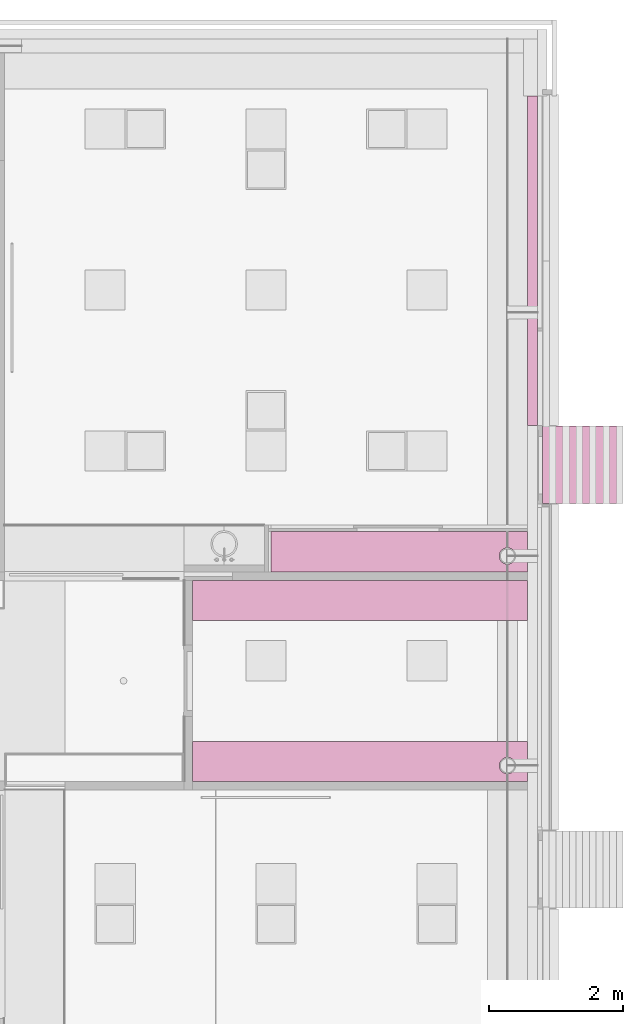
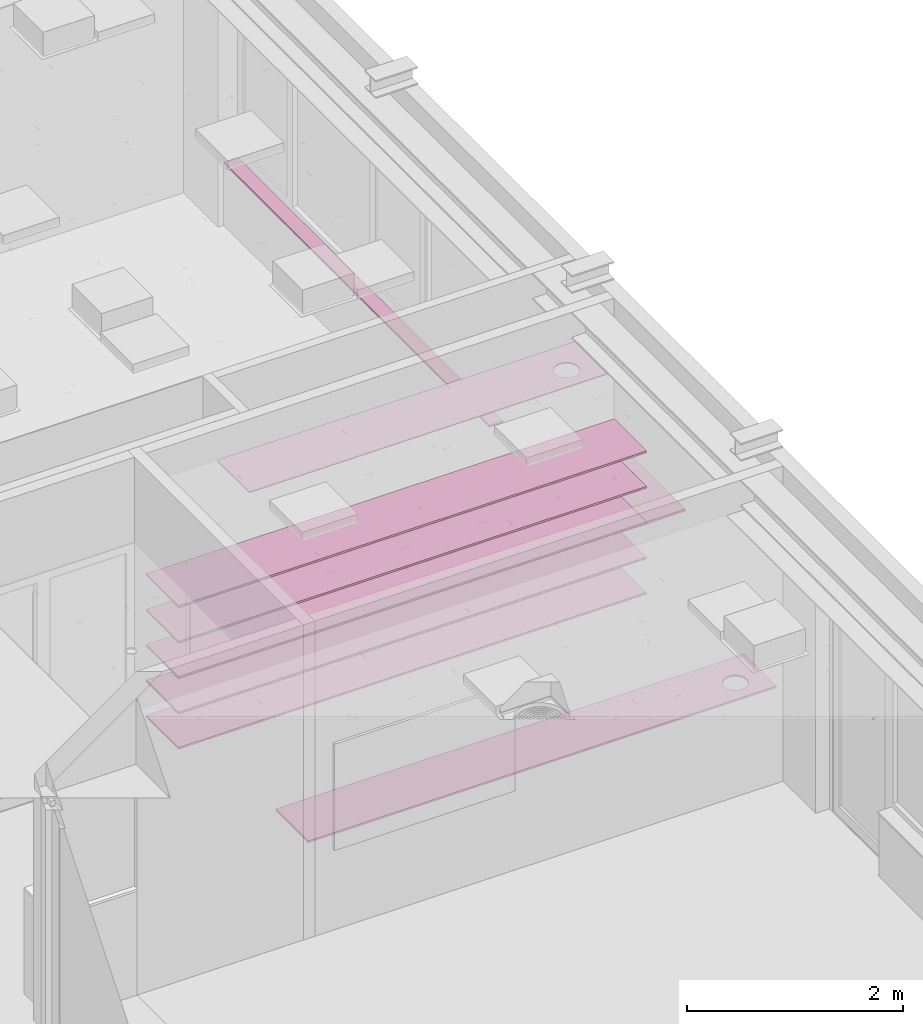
# One storey, part 329 of 347: 9 furnishings.
"""IFC2X3 building model written with IfcOpenShell, lengths in millimetres."""

from ifc_helpers import new_model, entity, si_unit, converted_unit, derived_unit, money_unit, direction, frame, origin_with_axes, place, context, subcontext, project, spatial, faceted_brep, material, type_object, element, save


model = new_model("IFC2X3")

# Units and contexts
model_context = context("Model", 3, precision=0.01, world=origin_with_axes(), true_north=direction((0.0, 1.0)))
plan_context = context("Plan", 3, precision=0.01, world=origin_with_axes(), true_north=direction((0.0, 1.0)))
body_context = subcontext(model_context, "Body", "Model", "MODEL_VIEW")
ifc_project = project(units=[si_unit("LENGTHUNIT", "METRE", prefix="MILLI"), si_unit("AREAUNIT", "SQUARE_METRE"), si_unit("VOLUMEUNIT", "CUBIC_METRE"), converted_unit("PLANEANGLEUNIT", "DEGREE", entity("IfcPlaneAngleMeasure", 0.0174532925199), si_unit("PLANEANGLEUNIT", "RADIAN"), dimensions=[0, 0, 0, 0, 0, 0, 0]), money_unit("EUR"), converted_unit("TIMEUNIT", "Year", entity("IfcTimeMeasure", 31556926.0), si_unit("TIMEUNIT", "SECOND"), dimensions=[0, 0, 1, 0, 0, 0, 0]), si_unit("MASSUNIT", "GRAM", prefix="KILO"), si_unit("THERMODYNAMICTEMPERATUREUNIT", "DEGREE_CELSIUS"), si_unit("LUMINOUSINTENSITYUNIT", "LUMEN"), si_unit("ENERGYUNIT", "JOULE", prefix="MEGA"), derived_unit("THERMALCONDUCTANCEUNIT", [(si_unit("POWERUNIT", "WATT"), 1), (si_unit("LENGTHUNIT", "METRE"), -1), (si_unit("THERMODYNAMICTEMPERATUREUNIT", "KELVIN"), -1)]), derived_unit("SPECIFICHEATCAPACITYUNIT", [(si_unit("ENERGYUNIT", "JOULE"), 1), (si_unit("MASSUNIT", "GRAM", prefix="KILO"), -1), (si_unit("THERMODYNAMICTEMPERATUREUNIT", "KELVIN"), -1)]), derived_unit("MASSDENSITYUNIT", [(si_unit("MASSUNIT", "GRAM", prefix="KILO"), 1), (si_unit("VOLUMEUNIT", "CUBIC_METRE"), -1)])], contexts=[model_context, plan_context])

# Site, building, storey
site_placement = place(None, origin_with_axes())
site = spatial("IfcSite", under=ifc_project, at=site_placement, Name="Site", CompositionType="ELEMENT")
building_placement = place(site_placement, origin_with_axes())
building = spatial("IfcBuilding", under=site, at=building_placement, Name="Naam gebouw", CompositionType="ELEMENT")
storey_placement = place(building_placement, origin_with_axes())
storey = spatial("IfcBuildingStorey", under=building, at=storey_placement, Name="begane grond", CompositionType="ELEMENT", Elevation=0.0)

# Furnishings
ifc_material_1 = material(Name="ALG - LICHTE SCHEIDINGSWAND")
furniture_type_1 = type_object("IfcFurnitureType", Name="44 koof plaf 50", AssemblyPlace="NOTDEFINED")
furnishing_1_placement = place(storey_placement, frame((52050.0, 39087.5, 2622.0), z_axis=(0.0, 0.0, 1.0), x_axis=(1.0, 0.0, 0.0)))
element("IfcFurnishingElement", 1, at=furnishing_1_placement, inside=storey, type_object=furniture_type_1, material=ifc_material_1, Name="72_76 vaste inrichting", ObjectType="SHELF", context=body_context, shape_type="Brep", body=[
    faceted_brep([(3825.00005656, 600.000000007, 0.0), (3825.00005656, 0.0, 0.0), (0.0, 0.0, 0.0), (0.0, 600.000000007, 0.0), (3620.57889873, 161.278371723, 0.0), (3635.1434441, 184.457712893, 0.0), (3644.18493726, 210.296815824, 0.0), (3647.25, 237.5, 0.0), (3644.18493726, 264.703184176, 0.0), (3635.1434441, 290.542287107, 0.0), (3620.57889873, 313.721628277, 0.0), (3601.22162828, 333.078898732, 0.0), (3578.04228711, 347.643444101, 0.0), (3552.20318418, 356.684937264, 0.0), (3525.0, 359.75, 0.0), (3497.79681582, 356.684937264, 0.0), (3471.95771289, 347.643444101, 0.0), (3448.77837172, 333.078898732, 0.0), (3429.42110127, 313.721628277, 0.0), (3414.8565559, 290.542287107, 0.0), (3405.81506274, 264.703184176, 0.0), (3402.75, 237.5, 0.0), (3405.81506274, 210.296815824, 0.0), (3414.8565559, 184.457712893, 0.0), (3429.42110127, 161.278371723, 0.0), (3448.77837172, 141.921101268, 0.0), (3471.95771289, 127.356555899, 0.0), (3497.79681582, 118.315062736, 0.0), (3525.0, 115.25, 0.0), (3552.20318418, 118.315062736, 0.0), (3578.04228711, 127.356555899, 0.0), (3601.22162828, 141.921101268, 0.0), (3825.00005656, 600.000000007, 12.0), (3825.00005656, 0.0, 12.0), (0.0, 0.0, 12.0), (0.0, 600.000000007, 12.0), (3620.57889873, 161.278371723, 12.0), (3635.1434441, 184.457712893, 12.0), (3644.18493726, 210.296815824, 12.0), (3647.25, 237.5, 12.0), (3644.18493726, 264.703184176, 12.0), (3635.1434441, 290.542287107, 12.0), (3620.57889873, 313.721628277, 12.0), (3601.22162828, 333.078898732, 12.0), (3578.04228711, 347.643444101, 12.0), (3552.20318418, 356.684937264, 12.0), (3525.0, 359.75, 12.0), (3497.79681582, 356.684937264, 12.0), (3471.95771289, 347.643444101, 12.0), (3448.77837172, 333.078898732, 12.0), (3429.42110127, 313.721628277, 12.0), (3414.8565559, 290.542287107, 12.0), (3405.81506274, 264.703184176, 12.0), (3402.75, 237.5, 12.0), (3405.81506274, 210.296815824, 12.0), (3414.8565559, 184.457712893, 12.0), (3429.42110127, 161.278371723, 12.0), (3448.77837172, 141.921101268, 12.0), (3471.95771289, 127.356555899, 12.0), (3497.79681582, 118.315062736, 12.0), (3525.0, 115.25, 12.0), (3552.20318418, 118.315062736, 12.0), (3578.04228711, 127.356555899, 12.0), (3601.22162828, 141.921101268, 12.0)], [[[0, 1, 2, 3], [4, 5, 6, 7, 8, 9, 10, 11, 12, 13, 14, 15, 16, 17, 18, 19, 20, 21, 22, 23, 24, 25, 26, 27, 28, 29, 30, 31]], [[32, 33, 1, 0]], [[33, 34, 2, 1]], [[34, 35, 3, 2]], [[35, 32, 0, 3]], [[4, 36, 37, 5]], [[5, 37, 38, 6]], [[6, 38, 39, 7]], [[7, 39, 40, 8]], [[8, 40, 41, 9]], [[9, 41, 42, 10]], [[10, 42, 43, 11]], [[11, 43, 44, 12]], [[12, 44, 45, 13]], [[13, 45, 46, 14]], [[14, 46, 47, 15]], [[15, 47, 48, 16]], [[16, 48, 49, 17]], [[17, 49, 50, 18]], [[18, 50, 51, 19]], [[19, 51, 52, 20]], [[20, 52, 53, 21]], [[21, 53, 54, 22]], [[22, 54, 55, 23]], [[23, 55, 56, 24]], [[24, 56, 57, 25]], [[25, 57, 58, 26]], [[26, 58, 59, 27]], [[27, 59, 60, 28]], [[28, 60, 61, 29]], [[29, 61, 62, 30]], [[30, 62, 63, 31]], [[31, 63, 36, 4]], [[32, 35, 34, 33], [42, 41, 40, 39, 38, 37, 36, 63, 62, 61, 60, 59, 58, 57, 56, 55, 54, 53, 52, 51, 50, 49, 48, 47, 46, 45, 44, 43]]]),
])
ifc_material_2 = material(Name="Hout - Spaanplaat")
furniture_type_2 = type_object("IfcFurnitureType", Name="Hout - Spaanplaat 20", AssemblyPlace="NOTDEFINED")
for number, where, z_axis, x_axis, name in (
    (2, (55875.000024, 38362.5, 1000.0), (0.0, 0.0, 1.0), (1.0, 0.0, 0.0), "72_72 vaste inrichting"),
    (3, (55875.000024, 38362.5, 2200.0), (0.0, 0.0, 1.0), (1.0, 0.0, 0.0), "72_72 vaste inrichting"),
    (4, (55875.000024, 38362.5, 1400.0), (0.0, 0.0, 1.0), (1.0, 0.0, 0.0), "72_72 vaste inrichting"),
    (5, (55875.000024, 38362.5, 600.0), (0.0, 0.0, 1.0), (1.0, 0.0, 0.0), "72_72 vaste inrichting"),
    (6, (55875.000024, 38362.5, 1800.0), (0.0, 0.0, 1.0), (1.0, 0.0, 0.0), "72_72 vaste inrichting"),
):
    element("IfcFurnishingElement", number, at=place(storey_placement, frame(where, z_axis=z_axis, x_axis=x_axis)), inside=storey, type_object=furniture_type_2, material=ifc_material_2, Name=name, ObjectType="SHELF", context=body_context, shape_type="Brep", body=[
        faceted_brep([(0.0, 0.0, 0.0), (0.0, 0.0, -20.0), (0.0, 600.0, -20.0), (0.0, 600.0, 0.0), (-5000.0, 0.0, 0.0), (-5000.0, 0.0, -20.0), (-5000.0, 600.0, -20.0), (-5000.0, 600.0, 0.0)], [[[0, 1, 2, 3]], [[4, 5, 1, 0]], [[2, 1, 5, 6]], [[3, 2, 6, 7]], [[4, 0, 3, 7]], [[7, 6, 5, 4]]]),
    ])
furnishing_2_placement = place(storey_placement, frame((55875.000024, 35962.5, 1000.0), z_axis=(0.0, 0.0, 1.0), x_axis=(1.0, 0.0, 0.0)))
element("IfcFurnishingElement", 7, at=furnishing_2_placement, inside=storey, type_object=furniture_type_2, material=ifc_material_2, Name="72_73 vaste inrichting", ObjectType="SHELF", context=body_context, shape_type="Brep", body=[
    faceted_brep([(-5000.0, 600.0, -20.0), (0.0, 600.0, -20.0), (0.0, 0.0, -20.0), (-5000.0, 0.0, -20.0), (-204.421125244, 161.278371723, -20.0), (-189.856579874, 184.457712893, -20.0), (-180.815086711, 210.296815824, -20.0), (-177.750023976, 237.5, -20.0), (-180.815086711, 264.703184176, -20.0), (-189.856579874, 290.542287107, -20.0), (-204.421125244, 313.721628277, -20.0), (-223.778395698, 333.078898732, -20.0), (-246.957736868, 347.643444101, -20.0), (-272.796839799, 356.684937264, -20.0), (-300.000023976, 359.75, -20.0), (-327.203208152, 356.684937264, -20.0), (-353.042311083, 347.643444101, -20.0), (-376.221652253, 333.078898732, -20.0), (-395.578922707, 313.721628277, -20.0), (-410.143468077, 290.542287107, -20.0), (-419.18496124, 264.703184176, -20.0), (-422.250023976, 237.5, -20.0), (-419.18496124, 210.296815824, -20.0), (-410.143468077, 184.457712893, -20.0), (-395.578922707, 161.278371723, -20.0), (-376.221652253, 141.921101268, -20.0), (-353.042311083, 127.356555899, -20.0), (-327.203208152, 118.315062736, -20.0), (-300.000023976, 115.25, -20.0), (-272.796839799, 118.315062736, -20.0), (-246.957736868, 127.356555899, -20.0), (-223.778395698, 141.921101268, -20.0), (-5000.0, 600.0, 0.0), (0.0, 600.0, 0.0), (0.0, 0.0, 0.0), (-5000.0, 0.0, 0.0), (-204.421125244, 161.278371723, 0.0), (-189.856579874, 184.457712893, 0.0), (-180.815086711, 210.296815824, 0.0), (-177.750023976, 237.5, 0.0), (-180.815086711, 264.703184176, 0.0), (-189.856579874, 290.542287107, 0.0), (-204.421125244, 313.721628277, 0.0), (-223.778395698, 333.078898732, 0.0), (-246.957736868, 347.643444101, 0.0), (-272.796839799, 356.684937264, 0.0), (-300.000023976, 359.75, 0.0), (-327.203208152, 356.684937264, 0.0), (-353.042311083, 347.643444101, 0.0), (-376.221652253, 333.078898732, 0.0), (-395.578922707, 313.721628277, 0.0), (-410.143468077, 290.542287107, 0.0), (-419.18496124, 264.703184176, 0.0), (-422.250023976, 237.5, 0.0), (-419.18496124, 210.296815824, 0.0), (-410.143468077, 184.457712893, 0.0), (-395.578922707, 161.278371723, 0.0), (-376.221652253, 141.921101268, 0.0), (-353.042311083, 127.356555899, 0.0), (-327.203208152, 118.315062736, 0.0), (-300.000023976, 115.25, 0.0), (-272.796839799, 118.315062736, 0.0), (-246.957736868, 127.356555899, 0.0), (-223.778395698, 141.921101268, 0.0)], [[[0, 1, 2, 3], [4, 5, 6, 7, 8, 9, 10, 11, 12, 13, 14, 15, 16, 17, 18, 19, 20, 21, 22, 23, 24, 25, 26, 27, 28, 29, 30, 31]], [[32, 33, 1, 0]], [[33, 34, 2, 1]], [[34, 35, 3, 2]], [[35, 32, 0, 3]], [[4, 36, 37, 5]], [[5, 37, 38, 6]], [[6, 38, 39, 7]], [[7, 39, 40, 8]], [[8, 40, 41, 9]], [[9, 41, 42, 10]], [[10, 42, 43, 11]], [[11, 43, 44, 12]], [[12, 44, 45, 13]], [[13, 45, 46, 14]], [[14, 46, 47, 15]], [[15, 47, 48, 16]], [[16, 48, 49, 17]], [[17, 49, 50, 18]], [[18, 50, 51, 19]], [[19, 51, 52, 20]], [[20, 52, 53, 21]], [[21, 53, 54, 22]], [[22, 54, 55, 23]], [[23, 55, 56, 24]], [[24, 56, 57, 25]], [[25, 57, 58, 26]], [[26, 58, 59, 27]], [[27, 59, 60, 28]], [[28, 60, 61, 29]], [[29, 61, 62, 30]], [[30, 62, 63, 31]], [[31, 63, 36, 4]], [[32, 35, 34, 33], [42, 41, 40, 39, 38, 37, 36, 63, 62, 61, 60, 59, 58, 57, 56, 55, 54, 53, 52, 51, 50, 49, 48, 47, 46, 45, 44, 43]]]),
])
ifc_material_3 = material(Name="42 vensterbank")
furniture_type_3 = type_object("IfcFurnitureType", Name="42 vensterbank 20", AssemblyPlace="NOTDEFINED")
furnishing_3_placement = place(storey_placement, frame((55875.0000144, 46187.000019, 720.0), z_axis=(0.0, 0.0, 1.0), x_axis=(1.0, 0.0, 0.0)))
element("IfcFurnishingElement", 8, at=furnishing_3_placement, inside=storey, type_object=furniture_type_3, material=ifc_material_3, Name="72_73 vaste inrichting", ObjectType="SHELF", context=body_context, shape_type="Brep", body=[
    faceted_brep([(0.0, 0.0, 0.0), (0.0, 0.0, -20.0), (0.0, -4913.0000005, -20.0), (0.0, -4913.0000005, 0.0), (149.99997201, 0.0, 0.0), (149.99997201, 0.0, -20.0), (149.99997201, -4913.0000005, -20.0), (149.99997201, -4913.0000005, 0.0)], [[[0, 1, 2, 3]], [[4, 5, 1, 0]], [[2, 1, 5, 6]], [[3, 2, 6, 7]], [[4, 0, 3, 7]], [[7, 6, 5, 4]]]),
])
ifc_material_4 = material(Name="Metaal - Aluminium")
furniture_type_4 = type_object("IfcFurnitureType", Name="Metaal - Aluminium 25", AssemblyPlace="NOTDEFINED")
furnishing_4_placement = place(storey_placement, frame((56097.0000252, 41260.0000196, -15.0), z_axis=(0.0, 0.0, 1.0), x_axis=(1.0, 0.0, 0.0)))
element("IfcFurnishingElement", 9, at=furnishing_4_placement, inside=storey, type_object=furniture_type_4, material=ifc_material_4, Name="72_43 schoonloop zone 1", ObjectType="SHELF", context=body_context, shape_type="Brep", body=[
    faceted_brep([(0.0, 0.0, 0.0), (0.0, 0.0, -25.0), (0.0, -1150.0, -25.0), (0.0, -1150.0, 0.0), (1199.99997171, 0.0, 0.0), (1199.99997171, 0.0, -25.0), (1199.99997171, -1150.0, -25.0), (1199.99997171, -1150.0, 0.0)], [[[0, 1, 2, 3]], [[4, 5, 1, 0]], [[2, 1, 5, 6]], [[3, 2, 6, 7]], [[4, 0, 3, 7]], [[7, 6, 5, 4]]]),
])

save(model, "model.ifc")
